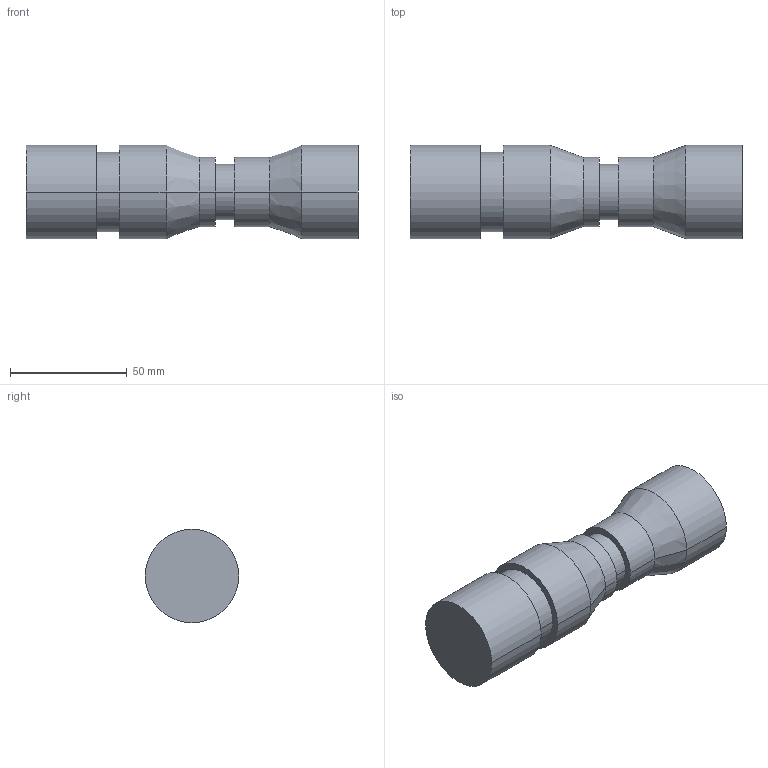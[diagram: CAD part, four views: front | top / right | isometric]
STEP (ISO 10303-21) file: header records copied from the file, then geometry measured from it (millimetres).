
FILE_DESCRIPTION (( 'STEP AP203' ), '1' );
FILE_NAME ('turn.exams_24.STEP', '2025-06-13T12:00:02', ( '' ), ( '' ), 'SwSTEP 2.0', 'SolidWorks 2024', '' );
FILE_SCHEMA (( 'CONFIG_CONTROL_DESIGN' ));
Length unit declared in the file: millimetre
Products named in the file (1): turn.exams_24
Bounding box: 142.19 x 40 x 40 mm (x, y, z)
Volume: 132740.4 mm3; surface area: 21716.9 mm2
Topology: 1 solids, 1 shells, 27 faces, 52 edges, 32 vertices
Faces by surface type: cylinder 16, plane 7, cone 4
Entity records: 771 total; most frequent: DIRECTION 140, CARTESIAN_POINT 112, ORIENTED_EDGE 104, AXIS2_PLACEMENT_3D 60, EDGE_CURVE 52, VERTEX_POINT 32, CIRCLE 32, EDGE_LOOP 32
